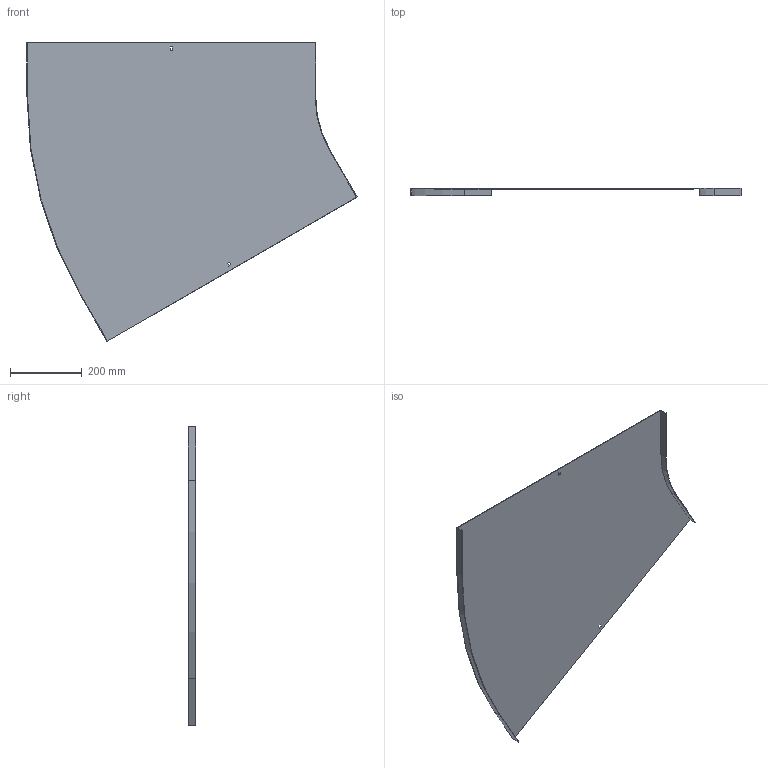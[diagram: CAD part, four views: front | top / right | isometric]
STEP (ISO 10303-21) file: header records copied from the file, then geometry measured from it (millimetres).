
FILE_DESCRIPTION (( 'STEP AP214' ), '1' );
FILE_NAME ('A2_12N3R800.step', '2025-02-21T10:49:10', ( '' ), ( '' ), 'SwSTEP 2.0', 'SolidWorks 2023', '' );
FILE_SCHEMA (( 'AUTOMOTIVE_DESIGN' ));
Length unit declared in the file: millimetre
Products named in the file (1): A2_12N3R800
Bounding box: 917.99 x 20 x 830.65 mm (x, y, z)
Volume: 839638.6 mm3; surface area: 1124130.7 mm2
Topology: 1 solids, 1 shells, 26 faces, 72 edges, 48 vertices
Faces by surface type: plane 22, cylinder 4
Entity records: 855 total; most frequent: CARTESIAN_POINT 147, ORIENTED_EDGE 144, DIRECTION 134, EDGE_CURVE 72, LINE 64, VECTOR 64, VERTEX_POINT 48, AXIS2_PLACEMENT_3D 35
